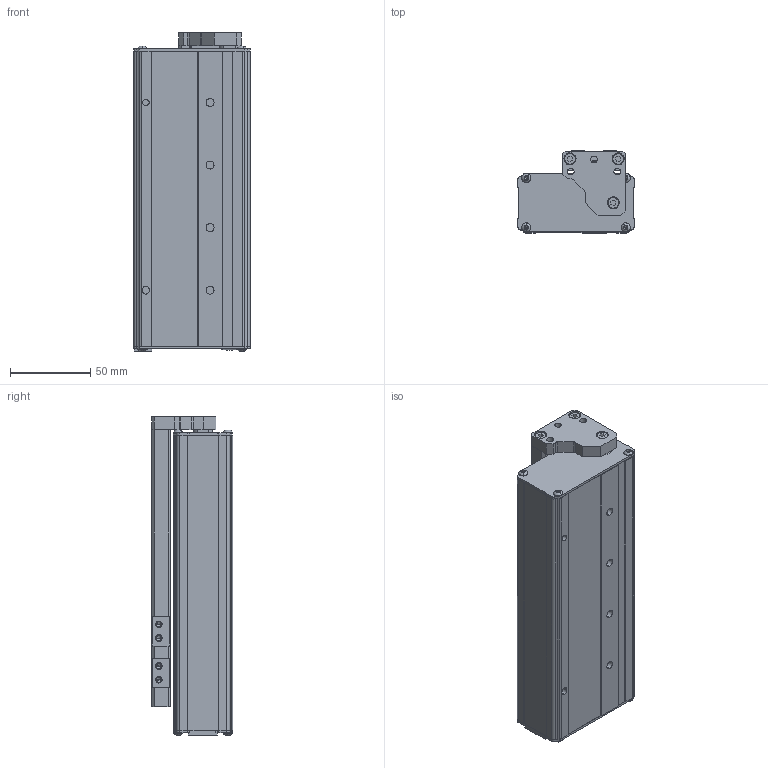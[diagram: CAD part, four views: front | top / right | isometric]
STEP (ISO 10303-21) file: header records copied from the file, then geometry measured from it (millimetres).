
FILE_DESCRIPTION (( 'STEP AP203' ), '1' );
FILE_NAME ('CSS12L-1.5-100.STEP', '2025-03-04T00:35:33', ( '微软用户' ), ( '微软中国' ), 'SwSTEP 2.0', 'SolidWorks 2018', '' );
FILE_SCHEMA (( 'CONFIG_CONTROL_DESIGN' ));
Length unit declared in the file: millimetre
Products named in the file (12): 复件 内六角杯头螺钉M4-8^CSS12L-1.5-100（SVS-WS-RB24051）; 复件 SVS-WS-RB24051-P003  安装板（左折）^CSS12L-1.5-100（SVS-WS-RB24051）; socket button head screw_iso_ISO 7380 - M3 x 8 - 8N; 复件 SVS-WS-RB24051-P004  空心圆杆 (ST=100)^CSS12L-1.5-100（SVS-WS-RB24051）; CSS12L-1.5-100; 复件 SVS-WS-RB24051-P005  盖板1^CSS12L-1.5-100（SVS-WS-RB24051）; 复件 SVS-WS-RB24051-P001-01  FRAME（左折，ST=100）^CSS12L-1.5-100（SVS-WS-RB24051）; 复件 SVS-WS-RB24051-P006  盖板2^CSS12L-1.5-100（SVS-WS-RB24051）; 复件 SVS-WS-RB24051-P009  固线块（借 SVS-WS-RB24046-P007）^CSS12L-1.5-100（SVS-WS-RB24051）; 复件 SVS-WS-RB24051-B002-01  导轨（伙伴气动 MXQ12-100 借SVS-WS-RB24050-B002-01）^CSS12L-1.5-100（SVS-WS-RB24051）; 复件 SVS-WS-RB24051-B008  堵头塞子（靓亿家  φ8宽边带槽型）^CSS12L-1.5-100（SVS-WS-RB24051）; 复件 内六角杯头螺钉M4-10^CSS12L-1.5-100（SVS-WS-RB24051）
Assembly tree (19 placements, depth 2):
  CSS12L-1.5-100
    复件 SVS-WS-RB24051-P001-01  FRAME（左折，ST=100）^CSS12L-1.5-100（SVS-WS-RB24051）
    复件 SVS-WS-RB24051-P003  安装板（左折）^CSS12L-1.5-100（SVS-WS-RB24051）
    复件 SVS-WS-RB24051-P004  空心圆杆 (ST=100)^CSS12L-1.5-100（SVS-WS-RB24051）
    复件 SVS-WS-RB24051-P005  盖板1^CSS12L-1.5-100（SVS-WS-RB24051）
    复件 SVS-WS-RB24051-P006  盖板2^CSS12L-1.5-100（SVS-WS-RB24051）
    复件 SVS-WS-RB24051-P009  固线块（借 SVS-WS-RB24046-P007）^CSS12L-1.5-100（SVS-WS-RB24051）
    复件 SVS-WS-RB24051-B002-01  导轨（伙伴气动 MXQ12-100 借SVS-WS-RB24050-B002-01）^CSS12L-1.5-100（SVS-WS-RB24051）
    复件 SVS-WS-RB24051-B008  堵头塞子（靓亿家  φ8宽边带槽型）^CSS12L-1.5-100（SVS-WS-RB24051）
    复件 内六角杯头螺钉M4-10^CSS12L-1.5-100（SVS-WS-RB24051）  x2
    复件 内六角杯头螺钉M4-8^CSS12L-1.5-100（SVS-WS-RB24051）
    socket button head screw_iso_ISO 7380 - M3 x 8 - 8N  x8
Bounding box: 72.5 x 50.9 x 198.65 mm (x, y, z)
Volume: 519116.6 mm3; surface area: 106692.8 mm2
Topology: 19 solids, 19 shells, 802 faces, 2013 edges, 1231 vertices
Faces by surface type: plane 312, cylinder 259, cone 175, torus 28, sphere 18, bspline 10
Entity records: 21853 total; most frequent: CARTESIAN_POINT 5465, DIRECTION 3239, ORIENTED_EDGE 3026, EDGE_CURVE 1513, AXIS2_PLACEMENT_3D 1204, VERTEX_POINT 960, LINE 831, VECTOR 831
